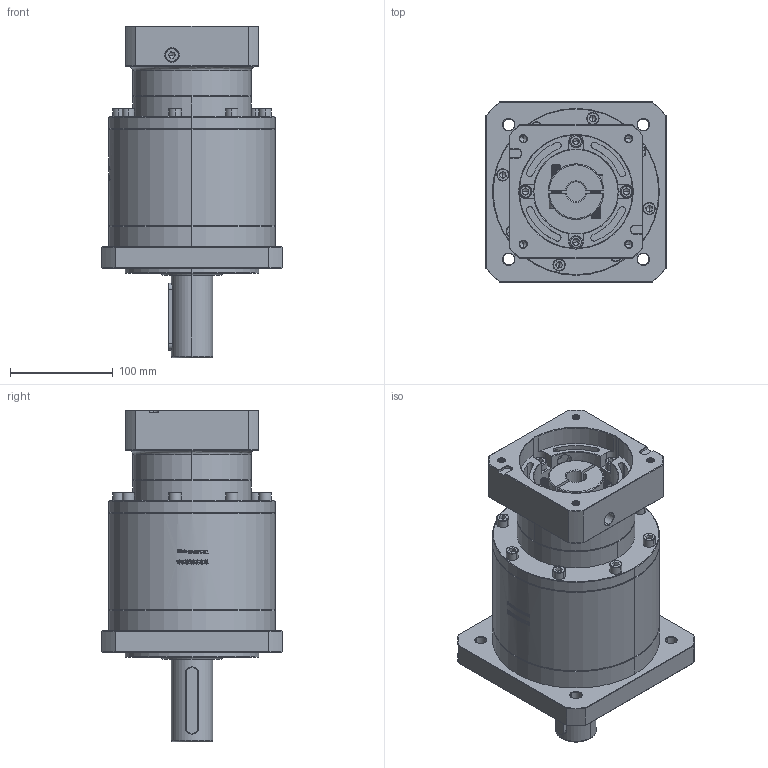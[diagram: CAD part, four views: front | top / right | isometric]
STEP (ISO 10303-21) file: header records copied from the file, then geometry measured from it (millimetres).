
FILE_DESCRIPTION (( 'STEP AP214' ), '1' );
FILE_NAME ('ZF160-D40-L3-19-110-145-M8.step', '2023-03-22T03:57:05', ( '' ), ( '' ), 'SwSTEP 2.0', 'SolidWorks 2016', '' );
FILE_SCHEMA (( 'AUTOMOTIVE_DESIGN' ));
Length unit declared in the file: millimetre
Products named in the file (1): ZF160-D40-L3-19-110-145-M8
Bounding box: 175 x 175 x 322.2 mm (x, y, z)
Volume: 4205513.4 mm3; surface area: 297450.1 mm2
Topology: 6 solids, 6 shells, 1914 faces, 4864 edges, 3070 vertices
Faces by surface type: plane 772, cylinder 511, cone 360, bspline 214, torus 57
Entity records: 102619 total; most frequent: CARTESIAN_POINT 37728, ORIENTED_EDGE 9620, DIRECTION 8438, EDGE_CURVE 4810, VERTEX_POINT 3070, AXIS2_PLACEMENT_3D 2931, LINE 2576, VECTOR 2576
